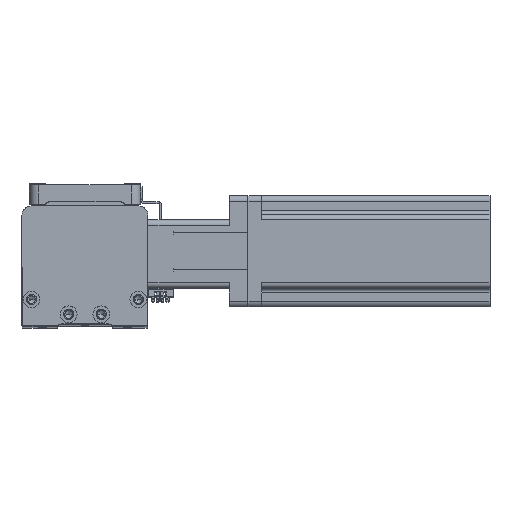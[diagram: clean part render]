
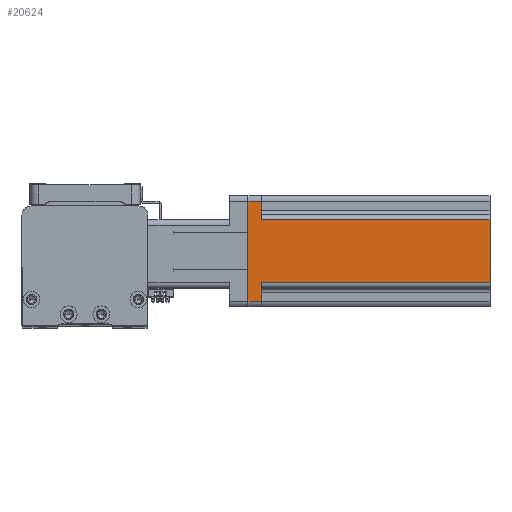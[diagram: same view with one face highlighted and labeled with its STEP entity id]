
A CAD part, top view. The second image highlights one B-rep face of the part: STEP entity #20624.
In plain terms, the highlighted planar face has unit normal (0, 0, 1) as drawn and (1, 0, 0) by its records, which use the part's own axes.
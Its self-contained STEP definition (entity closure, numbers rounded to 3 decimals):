
#2104 = EDGE_CURVE ( 'NONE', #18958, #13475, #4516, .T. ) ;
#3278 = VERTEX_POINT ( 'NONE', #16703 ) ;
#3296 = DIRECTION ( 'NONE',  ( -1., 0., 0. ) ) ;
#3688 = EDGE_CURVE ( 'NONE', #18958, #15564, #31132, .T. ) ;
#4177 = VECTOR ( 'NONE', #41962, 1000. ) ;
#4336 = VERTEX_POINT ( 'NONE', #24755 ) ;
#4516 = LINE ( 'NONE', #26065, #38314 ) ;
#5324 = EDGE_CURVE ( 'NONE', #37991, #13475, #31403, .T. ) ;
#5481 = CARTESIAN_POINT ( 'NONE',  ( 30., -27., 0. ) ) ;
#5914 = LINE ( 'NONE', #10022, #11619 ) ;
#7516 = VECTOR ( 'NONE', #16899, 1000. ) ;
#8670 = EDGE_CURVE ( 'NONE', #28279, #28513, #16192, .T. ) ;
#8675 = EDGE_CURVE ( 'NONE', #4336, #28279, #24890, .T. ) ;
#8807 = EDGE_CURVE ( 'NONE', #3278, #4336, #24856, .T. ) ;
#8923 = DIRECTION ( 'NONE',  ( 0., 0., 1. ) ) ;
#9087 = CARTESIAN_POINT ( 'NONE',  ( 30., 27., 7.5 ) ) ;
#9769 = PLANE ( 'NONE',  #36603 ) ;
#9826 = DIRECTION ( 'NONE',  ( 0., 0., -1. ) ) ;
#10022 = CARTESIAN_POINT ( 'NONE',  ( 30., -30., 130.7 ) ) ;
#10079 = VECTOR ( 'NONE', #8923, 1000. ) ;
#11619 = VECTOR ( 'NONE', #36246, 1000. ) ;
#12996 = FACE_OUTER_BOUND ( 'NONE', #21432, .T. ) ;
#13475 = VERTEX_POINT ( 'NONE', #9087 ) ;
#14051 = CARTESIAN_POINT ( 'NONE',  ( 30., -27., 7.5 ) ) ;
#15496 = ORIENTED_EDGE ( 'NONE', *, *, #36912, .F. ) ;
#15564 = VERTEX_POINT ( 'NONE', #26499 ) ;
#16159 = VECTOR ( 'NONE', #27459, 1000. ) ;
#16192 = LINE ( 'NONE', #39426, #33592 ) ;
#16703 = CARTESIAN_POINT ( 'NONE',  ( 30., -17., 130.7 ) ) ;
#16899 = DIRECTION ( 'NONE',  ( 0., 1., 0. ) ) ;
#18129 = ORIENTED_EDGE ( 'NONE', *, *, #8807, .T. ) ;
#18958 = VERTEX_POINT ( 'NONE', #28650 ) ;
#20624 = ADVANCED_FACE ( 'NONE', ( #12996 ), #9769, .F. ) ;
#20895 = CARTESIAN_POINT ( 'NONE',  ( 30., -17., 7.5 ) ) ;
#21432 = EDGE_LOOP ( 'NONE', ( #15496, #18129, #41705, #32501, #30026, #26084, #40048, #31982 ) ) ;
#22396 = CARTESIAN_POINT ( 'NONE',  ( 30., 17., 130.7 ) ) ;
#22422 = CARTESIAN_POINT ( 'NONE',  ( 30., 27., 130.7 ) ) ;
#22512 = DIRECTION ( 'NONE',  ( 0., 1., 0. ) ) ;
#22951 = CARTESIAN_POINT ( 'NONE',  ( 30., -30., 130.7 ) ) ;
#24333 = EDGE_CURVE ( 'NONE', #28513, #37991, #34702, .T. ) ;
#24755 = CARTESIAN_POINT ( 'NONE',  ( 30., -17., 7.5 ) ) ;
#24856 = LINE ( 'NONE', #20895, #16159 ) ;
#24890 = LINE ( 'NONE', #26452, #32564 ) ;
#26065 = CARTESIAN_POINT ( 'NONE',  ( 30., 30., 7.5 ) ) ;
#26084 = ORIENTED_EDGE ( 'NONE', *, *, #5324, .T. ) ;
#26262 = DIRECTION ( 'NONE',  ( 0., 0., 1. ) ) ;
#26452 = CARTESIAN_POINT ( 'NONE',  ( 30., -30., 7.5 ) ) ;
#26499 = CARTESIAN_POINT ( 'NONE',  ( 30., 17., 130.7 ) ) ;
#27459 = DIRECTION ( 'NONE',  ( 0., 0., -1. ) ) ;
#28279 = VERTEX_POINT ( 'NONE', #14051 ) ;
#28513 = VERTEX_POINT ( 'NONE', #5481 ) ;
#28650 = CARTESIAN_POINT ( 'NONE',  ( 30., 17., 7.5 ) ) ;
#29145 = CARTESIAN_POINT ( 'NONE',  ( 30., 27., 0. ) ) ;
#29768 = DIRECTION ( 'NONE',  ( 0., -1., 0. ) ) ;
#29937 = CARTESIAN_POINT ( 'NONE',  ( 30., -30., 0. ) ) ;
#30026 = ORIENTED_EDGE ( 'NONE', *, *, #24333, .T. ) ;
#31132 = LINE ( 'NONE', #22396, #10079 ) ;
#31403 = LINE ( 'NONE', #22422, #4177 ) ;
#31982 = ORIENTED_EDGE ( 'NONE', *, *, #3688, .T. ) ;
#32501 = ORIENTED_EDGE ( 'NONE', *, *, #8670, .T. ) ;
#32564 = VECTOR ( 'NONE', #29768, 1000. ) ;
#33592 = VECTOR ( 'NONE', #9826, 1000. ) ;
#34702 = LINE ( 'NONE', #29937, #7516 ) ;
#36246 = DIRECTION ( 'NONE',  ( 0., 1., 0. ) ) ;
#36603 = AXIS2_PLACEMENT_3D ( 'NONE', #22951, #3296, #26262 ) ;
#36912 = EDGE_CURVE ( 'NONE', #3278, #15564, #5914, .T. ) ;
#37991 = VERTEX_POINT ( 'NONE', #29145 ) ;
#38314 = VECTOR ( 'NONE', #22512, 1000. ) ;
#39426 = CARTESIAN_POINT ( 'NONE',  ( 30., -27., 130.7 ) ) ;
#40048 = ORIENTED_EDGE ( 'NONE', *, *, #2104, .F. ) ;
#41705 = ORIENTED_EDGE ( 'NONE', *, *, #8675, .T. ) ;
#41962 = DIRECTION ( 'NONE',  ( 0., 0., 1. ) ) ;
